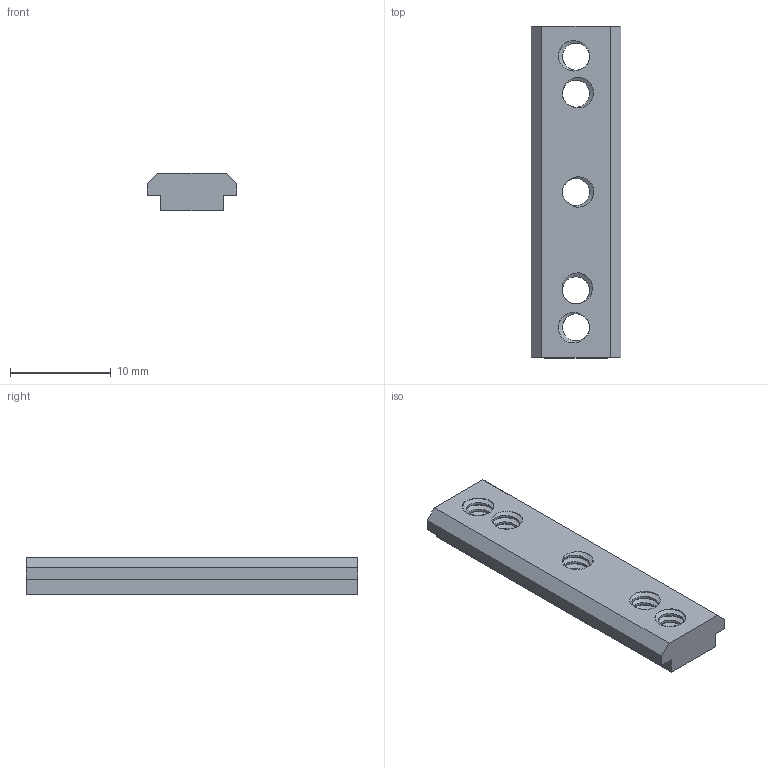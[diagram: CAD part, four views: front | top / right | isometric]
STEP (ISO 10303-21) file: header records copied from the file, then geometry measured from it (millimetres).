
FILE_DESCRIPTION (( 'STEP AP203' ), '1' );
FILE_NAME ('585718.STEP', '2016-08-23T20:38:49', ( '' ), ( '' ), 'SwSTEP 2.0', 'SolidWorks 2014', '' );
FILE_SCHEMA (( 'CONFIG_CONTROL_DESIGN' ));
Length unit declared in the file: inch
Products named in the file (1): 585718
Bounding box: 8.89 x 33.02 x 3.68 mm (x, y, z)
Volume: 777.3 mm3; surface area: 1053.3 mm2
Topology: 1 solids, 1 shells, 131 faces, 387 edges, 258 vertices
Faces by surface type: cylinder 109, plane 12, bspline 10
Entity records: 10094 total; most frequent: CARTESIAN_POINT 7157, ORIENTED_EDGE 774, DIRECTION 437, EDGE_CURVE 387, VERTEX_POINT 258, AXIS2_PLACEMENT_3D 154, EDGE_LOOP 141, FACE_OUTER_BOUND 131
